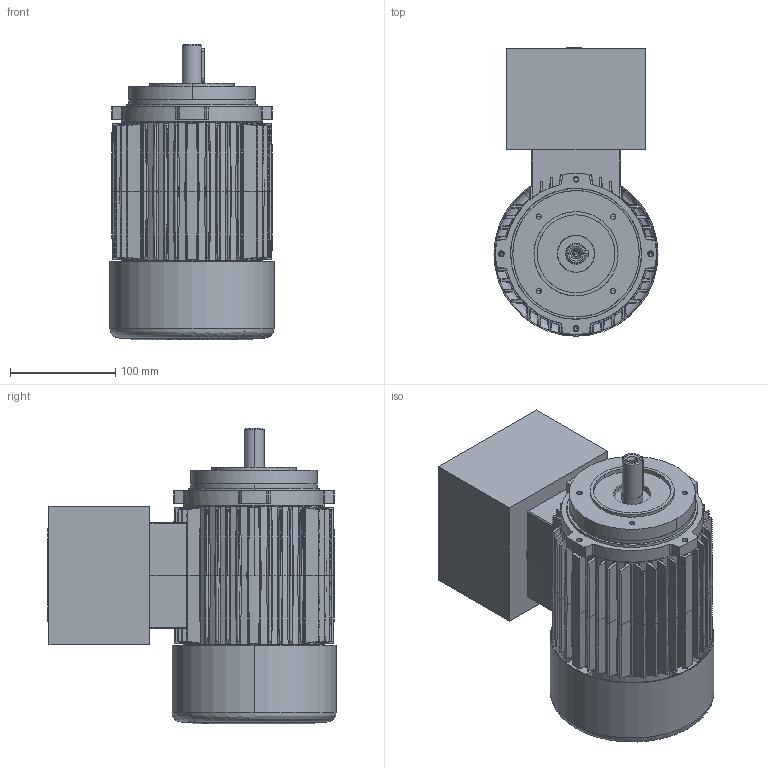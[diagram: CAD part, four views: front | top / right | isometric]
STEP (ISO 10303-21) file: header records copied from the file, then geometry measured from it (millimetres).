
FILE_DESCRIPTION (( 'STEP AP214' ), '1' );
FILE_NAME ('20.18391-C 5AT 80 B14_small Exd STANDK.STEP', '2018-05-08T07:33:58', ( '' ), ( '' ), 'SwSTEP 2.0', 'SolidWorks 2017', '' );
FILE_SCHEMA (( 'AUTOMOTIVE_DESIGN' ));
Length unit declared in the file: millimetre
Products named in the file (1): 20.18391-C 5AT 80 B14_small Exd STANDK
Bounding box: 156 x 274 x 281 mm (x, y, z)
Volume: 3344621.8 mm3; surface area: 483705.2 mm2
Topology: 4 solids, 12 shells, 962 faces, 2407 edges, 1514 vertices
Faces by surface type: plane 331, bspline 232, cone 207, cylinder 192
Entity records: 57625 total; most frequent: CARTESIAN_POINT 28937, ORIENTED_EDGE 4770, DIRECTION 2906, EDGE_CURVE 2385, VERTEX_POINT 1514, B_SPLINE_CURVE_WITH_KNOTS 1261, AXIS2_PLACEMENT_3D 1064, EDGE_LOOP 1047
